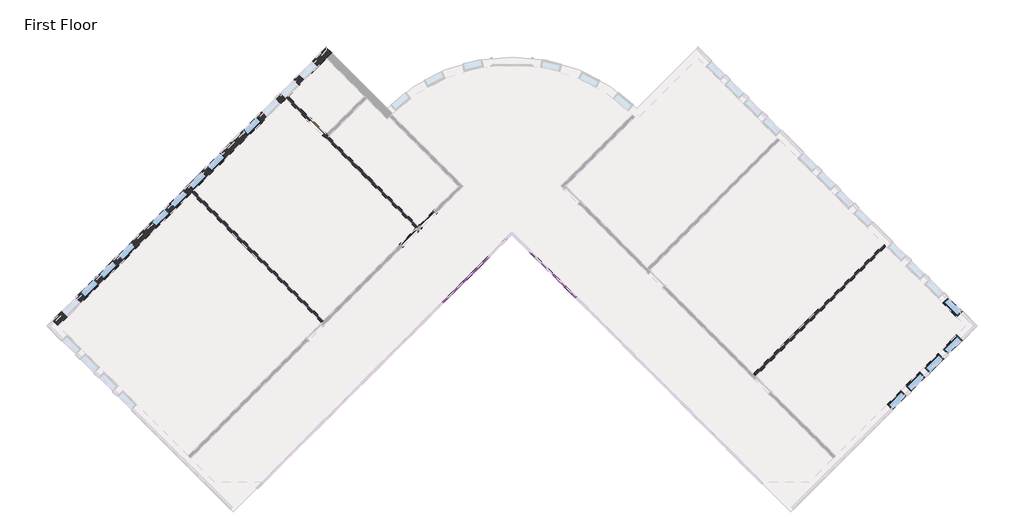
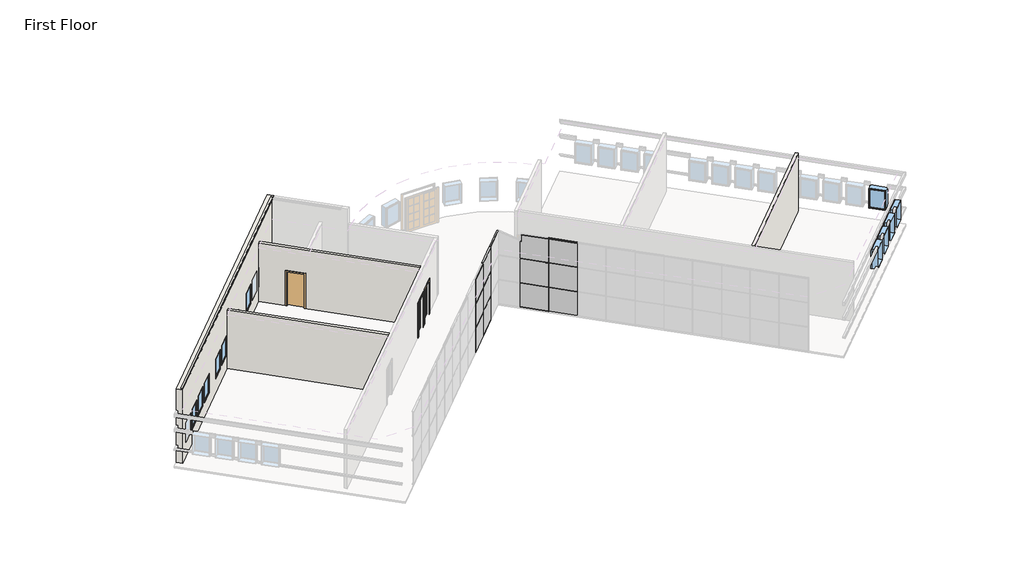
# One storey, part 3 of 5: 21 members, 13 windows, 12 plates, 4 walls, 3 doors.
"""IFC4 building model written with IfcOpenShell, lengths in millimetres."""

from ifc_helpers import new_model, si_unit, origin, origin_with_axes, place, context, project, spatial, polyline, outline, extrude, faceted_brep, transform, mapped, element, save
from components import door_f9494b7c, door_b81abb0e, door_5f5b55da, member_6121af53, member_155beb68, member_f5090587, member_42be4715, member_b8a5b5c0, system_panel_glazed_da345f4e, system_panel_glazed_f1e4c5b0, system_panel_solid_2f1037e2, system_panel_solid_f673cd79, window_15c49d37, window_0e2fc6ce

model = new_model("IFC4")

# Units and contexts
model_context = context("Model", 3, world=origin())
ifc_project = project(units=[si_unit("LENGTHUNIT", "METRE", prefix="MILLI")], contexts=[model_context])

# Site, building, storey
site = spatial("IfcSite", under=ifc_project)
building = spatial("IfcBuilding", under=site)
storey = spatial("IfcBuildingStorey", under=building, Name="First Floor", Elevation=0.0)

# Doors
placement = place(None, origin())
door_shape = door_f9494b7c(model_context)
element("IfcDoor", 1, ObjectType="Single-Flush : 36\" x 84\"", at=placement, inside=storey, context=model_context, shape_type="MappedRepresentation", body=[
    mapped(door_shape, transform((-11920.1265343, 7875.9588464, 0.0), x_axis=(0.7071067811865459, -0.7071067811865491, 0.0), y_axis=(0.7071067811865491, 0.7071067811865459, 0.0), z_axis=(0.0, 0.0, 1.0))),
])
door_2_shape = door_b81abb0e(model_context)
element("IfcDoor", 2, ObjectType="Single-Glass 1 : 36\" x 84\"", at=placement, inside=storey, context=model_context, shape_type="MappedRepresentation", body=[
    mapped(door_2_shape, transform((-7643.2795567, 2737.0072811, 0.0), x_axis=(0.7071067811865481, 0.7071067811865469, 0.0), y_axis=(-0.7071067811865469, 0.7071067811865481, 0.0), z_axis=(0.0, 0.0, 1.0))),
])
door_3_shape = door_5f5b55da(model_context)
element("IfcDoor", 3, ObjectType="Single-Glass 1 : 36\" x 84\"", at=placement, inside=storey, context=model_context, shape_type="MappedRepresentation", body=[
    mapped(door_3_shape, transform((-6781.1749691, 3599.1118687, 0.0), x_axis=(-0.7071067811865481, -0.7071067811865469, 0.0), y_axis=(0.7071067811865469, -0.7071067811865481, 0.0), z_axis=(0.0, 0.0, 1.0))),
])

# Members
member_shape = member_6121af53(model_context)
element("IfcMember", 4, ObjectType="Rectangular Mullion : 1.5\" x 2.5\" Rectangular", at=placement, inside=storey, context=model_context, shape_type="MappedRepresentation", body=[
    mapped(member_shape, transform((-5009.8194492, 810.7423431, 4572.0), x_axis=(0.0, 0.0, 1.0), y_axis=(-0.7071067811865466, 0.7071067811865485, 0.0), z_axis=(-0.7071067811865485, -0.7071067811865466, 0.0))),
])
element("IfcMember", 5, ObjectType="Rectangular Mullion : 1.5\" x 2.5\" Rectangular", at=placement, inside=storey, context=model_context, shape_type="MappedRepresentation", body=[
    mapped(member_shape, transform((-948.4986184, 1033.0036821, 4572.0), x_axis=(0.0, 0.0, 1.0), y_axis=(0.7071067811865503, 0.7071067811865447, 0.0), z_axis=(-0.7071067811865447, 0.7071067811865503, 0.0))),
])
member_2_shape = member_155beb68(model_context)
element("IfcMember", 6, ObjectType="Rectangular Mullion : 1.5\" x 2.5\" Rectangular", at=placement, inside=storey, context=model_context, shape_type="MappedRepresentation", body=[
    mapped(member_2_shape, transform((-3945.6590988, 1874.9026935, 1524.0), x_axis=(-0.7071067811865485, -0.7071067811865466, 0.0), y_axis=(-0.7071067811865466, 0.7071067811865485, 0.0), z_axis=(0.0, 0.0, -1.0))),
])
element("IfcMember", 7, ObjectType="Rectangular Mullion : 1.5\" x 2.5\" Rectangular", at=placement, inside=storey, context=model_context, shape_type="MappedRepresentation", body=[
    mapped(member_2_shape, transform((-5023.2898334, 797.271959, 1524.0), x_axis=(-0.7071067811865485, -0.7071067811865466, 0.0), y_axis=(-0.7071067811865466, 0.7071067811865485, 0.0), z_axis=(0.0, 0.0, -1.0))),
])
element("IfcMember", 8, ObjectType="Rectangular Mullion : 1.5\" x 2.5\" Rectangular", at=placement, inside=storey, context=model_context, shape_type="MappedRepresentation", body=[
    mapped(member_2_shape, transform((-961.9690026, 1046.4740663, 1524.0), x_axis=(-0.7071067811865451, 0.70710678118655, 0.0), y_axis=(0.70710678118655, 0.7071067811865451, 0.0), z_axis=(0.0, 0.0, -1.0))),
])
element("IfcMember", 9, ObjectType="Rectangular Mullion : 1.5\" x 2.5\" Rectangular", at=placement, inside=storey, context=model_context, shape_type="MappedRepresentation", body=[
    mapped(member_2_shape, transform((-3945.6590988, 1874.9026935, 3048.0), x_axis=(-0.7071067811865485, -0.7071067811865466, 0.0), y_axis=(-0.7071067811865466, 0.7071067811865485, 0.0), z_axis=(0.0, 0.0, -1.0))),
])
element("IfcMember", 10, ObjectType="Rectangular Mullion : 1.5\" x 2.5\" Rectangular", at=placement, inside=storey, context=model_context, shape_type="MappedRepresentation", body=[
    mapped(member_2_shape, transform((-5023.2898334, 797.271959, 3048.0), x_axis=(-0.7071067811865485, -0.7071067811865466, 0.0), y_axis=(-0.7071067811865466, 0.7071067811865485, 0.0), z_axis=(0.0, 0.0, -1.0))),
])
element("IfcMember", 11, ObjectType="Rectangular Mullion : 1.5\" x 2.5\" Rectangular", at=placement, inside=storey, context=model_context, shape_type="MappedRepresentation", body=[
    mapped(member_2_shape, transform((-961.9690026, 1046.4740663, 3048.0), x_axis=(-0.7071067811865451, 0.70710678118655, 0.0), y_axis=(0.70710678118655, 0.7071067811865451, 0.0), z_axis=(0.0, 0.0, -1.0))),
])
element("IfcMember", 12, ObjectType="Rectangular Mullion : 1.5\" x 2.5\" Rectangular", at=placement, inside=storey, context=model_context, shape_type="MappedRepresentation", body=[
    mapped(member_2_shape, transform((-3945.6590988, 1874.9026935, 0.0), x_axis=(-0.7071067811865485, -0.7071067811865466, 0.0), y_axis=(-0.7071067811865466, 0.7071067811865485, 0.0), z_axis=(0.0, 0.0, -1.0))),
])
element("IfcMember", 13, ObjectType="Rectangular Mullion : 1.5\" x 2.5\" Rectangular", at=placement, inside=storey, context=model_context, shape_type="MappedRepresentation", body=[
    mapped(member_2_shape, transform((-5023.2898334, 797.271959, 0.0), x_axis=(-0.7071067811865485, -0.7071067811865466, 0.0), y_axis=(-0.7071067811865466, 0.7071067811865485, 0.0), z_axis=(0.0, 0.0, -1.0))),
])
element("IfcMember", 14, ObjectType="Rectangular Mullion : 1.5\" x 2.5\" Rectangular", at=placement, inside=storey, context=model_context, shape_type="MappedRepresentation", body=[
    mapped(member_2_shape, transform((-961.9690026, 1046.4740663, 0.0), x_axis=(-0.7071067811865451, 0.70710678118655, 0.0), y_axis=(0.70710678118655, 0.7071067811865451, 0.0), z_axis=(0.0, 0.0, -1.0))),
])
member_3_shape = member_f5090587(model_context)
element("IfcMember", 15, ObjectType="Rectangular Mullion : 1.5\" x 2.5\" Rectangular", at=placement, inside=storey, context=model_context, shape_type="MappedRepresentation", body=[
    mapped(member_3_shape, transform((-3932.1887147, 1888.3730777, 3048.0), x_axis=(0.0, 0.0, 1.0), y_axis=(-0.7071067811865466, 0.7071067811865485, 0.0), z_axis=(-0.7071067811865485, -0.7071067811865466, 0.0))),
])
element("IfcMember", 16, ObjectType="Rectangular Mullion : 1.5\" x 2.5\" Rectangular", at=placement, inside=storey, context=model_context, shape_type="MappedRepresentation", body=[
    mapped(member_3_shape, transform((-3932.1887147, 1888.3730777, 1524.0), x_axis=(0.0, 0.0, 1.0), y_axis=(-0.7071067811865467, 0.7071067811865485, 0.0), z_axis=(-0.7071067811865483, -0.7071067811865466, 0.0))),
])
member_4_shape = member_42be4715(model_context)
element("IfcMember", 17, ObjectType="Rectangular Mullion : 1.5\" x 2.5\" Rectangular", at=placement, inside=storey, context=model_context, shape_type="MappedRepresentation", body=[
    mapped(member_4_shape, transform((-5009.8194492, 810.7423431, 3048.0), x_axis=(0.0, 0.0, 1.0), y_axis=(-0.7071067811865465, 0.7071067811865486, 0.0), z_axis=(-0.7071067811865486, -0.7071067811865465, 0.0))),
])
element("IfcMember", 18, ObjectType="Rectangular Mullion : 1.5\" x 2.5\" Rectangular", at=placement, inside=storey, context=model_context, shape_type="MappedRepresentation", body=[
    mapped(member_4_shape, transform((-5009.8194492, 810.7423431, 1524.0), x_axis=(0.0, 0.0, 1.0), y_axis=(-0.7071067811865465, 0.7071067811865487, 0.0), z_axis=(-0.7071067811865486, -0.7071067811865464, 0.0))),
])
element("IfcMember", 19, ObjectType="Rectangular Mullion : 1.5\" x 2.5\" Rectangular", at=placement, inside=storey, context=model_context, shape_type="MappedRepresentation", body=[
    mapped(member_4_shape, transform((-948.4986184, 1033.0036821, 3048.0), x_axis=(0.0, 0.0, 1.0), y_axis=(0.7071067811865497, 0.7071067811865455, 0.0), z_axis=(-0.7071067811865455, 0.7071067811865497, 0.0))),
])
element("IfcMember", 20, ObjectType="Rectangular Mullion : 1.5\" x 2.5\" Rectangular", at=placement, inside=storey, context=model_context, shape_type="MappedRepresentation", body=[
    mapped(member_4_shape, transform((-948.4986184, 1033.0036821, 1524.0), x_axis=(0.0, 0.0, 1.0), y_axis=(0.7071067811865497, 0.7071067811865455, 0.0), z_axis=(-0.7071067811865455, 0.7071067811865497, 0.0))),
])
element("IfcMember", 21, ObjectType="Rectangular Mullion : 1.5\" x 2.5\" Rectangular", at=placement, inside=storey, context=model_context, shape_type="MappedRepresentation", body=[
    mapped(member_shape, transform((-3959.129483, 1861.4323093, 0.0), x_axis=(0.0, 0.0, -1.0), y_axis=(-0.7071067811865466, 0.7071067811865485, 0.0), z_axis=(0.7071067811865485, 0.7071067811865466, 0.0))),
])
element("IfcMember", 22, ObjectType="Rectangular Mullion : 1.5\" x 2.5\" Rectangular", at=placement, inside=storey, context=model_context, shape_type="MappedRepresentation", body=[
    mapped(member_shape, transform((-5036.7602175, 783.8015748, 0.0), x_axis=(0.0, 0.0, -1.0), y_axis=(-0.7071067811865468, 0.7071067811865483, 0.0), z_axis=(0.7071067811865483, 0.7071067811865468, 0.0))),
])
element("IfcMember", 23, ObjectType="Rectangular Mullion : 1.5\" x 2.5\" Rectangular", at=placement, inside=storey, context=model_context, shape_type="MappedRepresentation", body=[
    mapped(member_shape, transform((-975.4393868, 1059.9444505, 0.0), x_axis=(0.0, 0.0, -1.0), y_axis=(0.7071067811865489, 0.7071067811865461, 0.0), z_axis=(0.7071067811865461, -0.7071067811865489, 0.0))),
])
member_5_shape = member_b8a5b5c0(model_context)
element("IfcMember", 24, ObjectType="Rectangular Mullion : 1.5\" x 2.5\" Rectangular", at=placement, inside=storey, context=model_context, shape_type="MappedRepresentation", body=[
    mapped(member_5_shape, transform((-3932.1887147, 1888.3730777, 4572.0), x_axis=(0.0, 0.0, 1.0), y_axis=(-0.7071067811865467, 0.7071067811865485, 0.0), z_axis=(-0.7071067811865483, -0.7071067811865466, 0.0))),
])

# Plates
system_panel_glazed_shape = system_panel_glazed_da345f4e(model_context)
element("IfcPlate", 25, ObjectType="System Panel : Glazed", at=placement, inside=storey, context=model_context, shape_type="MappedRepresentation", body=[
    mapped(system_panel_glazed_shape, transform((-423.1536353, 507.6586991, 38.1), x_axis=(-0.7071067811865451, 0.70710678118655, 0.0), y_axis=(-0.70710678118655, -0.7071067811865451, 0.0), z_axis=(0.0, 0.0, 1.0))),
])
element("IfcPlate", 26, ObjectType="System Panel : Glazed", at=placement, inside=storey, context=model_context, shape_type="MappedRepresentation", body=[
    mapped(system_panel_glazed_shape, transform((-4484.4744661, 1336.0873262, 38.1), x_axis=(-0.7071067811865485, -0.7071067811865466, 0.0), y_axis=(0.7071067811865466, -0.7071067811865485, 0.0), z_axis=(0.0, 0.0, 1.0))),
])
element("IfcPlate", 27, ObjectType="System Panel : Glazed", at=placement, inside=storey, context=model_context, shape_type="MappedRepresentation", body=[
    mapped(system_panel_glazed_shape, transform((-5562.1052006, 258.4565917, 38.1), x_axis=(-0.7071067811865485, -0.7071067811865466, 0.0), y_axis=(0.7071067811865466, -0.7071067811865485, 0.0), z_axis=(0.0, 0.0, 1.0))),
])
element("IfcPlate", 28, ObjectType="System Panel : Glazed", at=placement, inside=storey, context=model_context, shape_type="MappedRepresentation", body=[
    mapped(system_panel_glazed_shape, transform((-1500.7843699, 1585.2894336, 38.1), x_axis=(-0.7071067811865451, 0.70710678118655, 0.0), y_axis=(-0.70710678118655, -0.7071067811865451, 0.0), z_axis=(0.0, 0.0, 1.0))),
])
system_panel_glazed_2_shape = system_panel_glazed_f1e4c5b0(model_context)
element("IfcPlate", 29, ObjectType="System Panel : Glazed", at=placement, inside=storey, context=model_context, shape_type="MappedRepresentation", body=[
    mapped(system_panel_glazed_2_shape, transform((-423.1536353, 507.6586991, 1543.05), x_axis=(-0.7071067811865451, 0.70710678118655, 0.0), y_axis=(-0.70710678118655, -0.7071067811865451, 0.0), z_axis=(0.0, 0.0, 1.0))),
])
element("IfcPlate", 30, ObjectType="System Panel : Glazed", at=placement, inside=storey, context=model_context, shape_type="MappedRepresentation", body=[
    mapped(system_panel_glazed_2_shape, transform((-4484.4744661, 1336.0873262, 1543.05), x_axis=(-0.7071067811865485, -0.7071067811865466, 0.0), y_axis=(0.7071067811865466, -0.7071067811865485, 0.0), z_axis=(0.0, 0.0, 1.0))),
])
element("IfcPlate", 31, ObjectType="System Panel : Glazed", at=placement, inside=storey, context=model_context, shape_type="MappedRepresentation", body=[
    mapped(system_panel_glazed_2_shape, transform((-5562.1052006, 258.4565917, 1543.05), x_axis=(-0.7071067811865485, -0.7071067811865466, 0.0), y_axis=(0.7071067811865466, -0.7071067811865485, 0.0), z_axis=(0.0, 0.0, 1.0))),
])
element("IfcPlate", 32, ObjectType="System Panel : Glazed", at=placement, inside=storey, context=model_context, shape_type="MappedRepresentation", body=[
    mapped(system_panel_glazed_2_shape, transform((-1500.7843699, 1585.2894336, 1543.05), x_axis=(-0.7071067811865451, 0.70710678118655, 0.0), y_axis=(-0.70710678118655, -0.7071067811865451, 0.0), z_axis=(0.0, 0.0, 1.0))),
])
system_panel_solid_shape = system_panel_solid_2f1037e2(model_context)
element("IfcPlate", 33, ObjectType="System Panel : Solid", at=placement, inside=storey, context=model_context, shape_type="MappedRepresentation", body=[
    mapped(system_panel_solid_shape, transform((-423.1536353, 507.6586991, 3067.05), x_axis=(-0.7071067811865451, 0.70710678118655, 0.0), y_axis=(-0.70710678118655, -0.7071067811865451, 0.0), z_axis=(0.0, 0.0, 1.0))),
])
element("IfcPlate", 34, ObjectType="System Panel : Solid", at=placement, inside=storey, context=model_context, shape_type="MappedRepresentation", body=[
    mapped(system_panel_solid_shape, transform((-4484.4744661, 1336.0873262, 3067.05), x_axis=(-0.7071067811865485, -0.7071067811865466, 0.0), y_axis=(0.7071067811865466, -0.7071067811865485, 0.0), z_axis=(0.0, 0.0, 1.0))),
])
element("IfcPlate", 35, ObjectType="System Panel : Solid", at=placement, inside=storey, context=model_context, shape_type="MappedRepresentation", body=[
    mapped(system_panel_solid_shape, transform((-5562.1052006, 258.4565917, 3067.05), x_axis=(-0.7071067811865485, -0.7071067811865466, 0.0), y_axis=(0.7071067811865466, -0.7071067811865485, 0.0), z_axis=(0.0, 0.0, 1.0))),
])
system_panel_solid_2_shape = system_panel_solid_f673cd79(model_context)
element("IfcPlate", 36, ObjectType="System Panel : Solid", at=placement, inside=storey, context=model_context, shape_type="MappedRepresentation", body=[
    mapped(system_panel_solid_2_shape, transform((-1500.7843699, 1585.2894336, 3067.05), x_axis=(-0.7071067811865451, 0.70710678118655, 0.0), y_axis=(-0.70710678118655, -0.7071067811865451, 0.0), z_axis=(0.0, 0.0, 1.0))),
])

# Walls
element("IfcWall", 37, ObjectType="Exterior - Split Face and CMU on Mtl. Stud", at=placement, inside=storey, context=model_context, shape_type="Brep", body=[
    faceted_brep([(-23922.2388402, -1357.9895101, 0.0), (-17743.7048466, 4820.5444835, 0.0), (-17633.6967091, 4930.552621, 0.0), (-13359.2125777, 9205.0367523, 0.0), (-13249.2044403, 9315.0448898, 0.0), (-11489.0742405, 11075.1750895, 0.0), (-11239.8721332, 11324.3771969, 0.0), (-11239.8721332, 11324.3771969, 1016.0), (-11304.9789901, 11259.27034, 1016.0), (-11304.9789901, 11259.27034, 1085.85), (-11239.8721332, 11324.3771969, 1085.85), (-11239.8721332, 11324.3771969, 2133.6), (-11304.9789901, 11259.27034, 2133.6), (-11304.9789901, 11259.27034, 2336.8), (-11239.8721332, 11324.3771969, 2336.8), (-11239.8721332, 11324.3771969, 3048.0), (-11304.9789901, 11259.27034, 3048.0), (-11304.9789901, 11259.27034, 3251.2), (-11239.8721332, 11324.3771969, 3251.2), (-11239.8721332, 11324.3771969, 4572.0), (-11489.0742405, 11075.1750895, 4572.0), (-23922.2388402, -1357.9895101, 4572.0), (-23508.0245266, -943.7751965, 914.4), (-23508.0245266, -943.7751965, 2133.6), (-22861.4460859, -297.1967558, 2133.6), (-22861.4460859, -297.1967558, 914.4), (-22645.9199389, -81.6706089, 914.4), (-22645.9199389, -81.6706089, 2133.6), (-21999.3414982, 564.9078318, 2133.6), (-21999.3414982, 564.9078318, 914.4), (-20921.7107637, 1642.5385664, 914.4), (-20921.7107637, 1642.5385664, 2133.6), (-20275.132323, 2289.1170071, 2133.6), (-20275.132323, 2289.1170071, 914.4), (-21783.8153513, 780.4339787, 914.4), (-21783.8153513, 780.4339787, 2133.6), (-21137.2369106, 1427.0124195, 2133.6), (-21137.2369106, 1427.0124195, 914.4), (-11869.3770291, 10694.8723009, 2133.6), (-11869.3770291, 10694.8723009, 914.4), (-12515.9554698, 10048.2938602, 914.4), (-12515.9554698, 10048.2938602, 2133.6), (-12731.4816167, 9832.7677133, 2133.6), (-12731.4816167, 9832.7677133, 914.4), (-13378.0600575, 9186.1892726, 914.4), (-13378.0600575, 9186.1892726, 2133.6), (-13593.5862044, 8970.6631257, 2133.6), (-13593.5862044, 8970.6631257, 914.4), (-14240.1646451, 8324.084685, 914.4), (-14240.1646451, 8324.084685, 2133.6), (-14455.690792, 8108.5585381, 2133.6), (-14455.690792, 8108.5585381, 914.4), (-15102.2692327, 7461.9800974, 914.4), (-15102.2692327, 7461.9800974, 2133.6), (-19359.6176228, 3204.6317073, 914.4), (-19359.6176228, 3204.6317073, 2133.6), (-18713.0391821, 3851.210148, 2133.6), (-18713.0391821, 3851.210148, 914.4), (-18497.5130352, 4066.7362949, 914.4), (-18497.5130352, 4066.7362949, 2133.6), (-17850.9345944, 4713.3147356, 2133.6), (-17850.9345944, 4713.3147356, 914.4), (-17635.4084475, 4928.8408825, 914.4), (-17635.4084475, 4928.8408825, 2133.6), (-16988.8300068, 5575.4193232, 2133.6), (-16988.8300068, 5575.4193232, 914.4), (-16773.3038599, 5790.9454701, 914.4), (-16773.3038599, 5790.9454701, 2133.6), (-16126.7254192, 6437.5239109, 2133.6), (-16126.7254192, 6437.5239109, 914.4), (-11489.0742405, 11573.5793042, 0.0), (-24171.4409475, -1108.7874027, 0.0), (-24171.4409475, -1108.7874027, 1016.0), (-23757.2266339, -694.5730891, 1016.0), (-23757.2266339, -694.5730891, 914.4), (-23110.6481932, -47.9946484, 914.4), (-23110.6481932, -47.9946484, 1016.0), (-22895.1220463, 167.5314985, 1016.0), (-22895.1220463, 167.5314985, 914.4), (-22248.5436056, 814.1099392, 914.4), (-22248.5436056, 814.1099392, 1016.0), (-22033.0174587, 1029.6360861, 1016.0), (-22033.0174587, 1029.6360861, 914.4), (-21386.439018, 1676.2145268, 914.4), (-21386.439018, 1676.2145268, 1016.0), (-21170.9128711, 1891.7406737, 1016.0), (-21170.9128711, 1891.7406737, 914.4), (-20524.3344303, 2538.3191144, 914.4), (-20524.3344303, 2538.3191144, 1016.0), (-19608.8197301, 3453.8338146, 1016.0), (-19608.8197301, 3453.8338146, 914.4), (-18962.2412894, 4100.4122553, 914.4), (-18962.2412894, 4100.4122553, 1016.0), (-18746.7151425, 4315.9384023, 1016.0), (-18746.7151425, 4315.9384023, 914.4), (-18100.1367018, 4962.516843, 914.4), (-18100.1367018, 4962.516843, 1016.0), (-17884.6105549, 5178.0429899, 1016.0), (-17884.6105549, 5178.0429899, 914.4), (-17238.0321142, 5824.6214306, 914.4), (-17238.0321142, 5824.6214306, 1016.0), (-17022.5059673, 6040.1475775, 1016.0), (-17022.5059673, 6040.1475775, 914.4), (-16375.9275266, 6686.7260182, 914.4), (-16375.9275266, 6686.7260182, 1016.0), (-15351.4713401, 7711.1822047, 1016.0), (-15351.4713401, 7711.1822047, 914.4), (-14704.8928993, 8357.7606454, 914.4), (-14704.8928993, 8357.7606454, 1016.0), (-14489.3667524, 8573.2867923, 1016.0), (-14489.3667524, 8573.2867923, 914.4), (-13842.7883117, 9219.8652331, 914.4), (-13842.7883117, 9219.8652331, 1016.0), (-13627.2621648, 9435.39138, 1016.0), (-13627.2621648, 9435.39138, 914.4), (-12980.6837241, 10081.9698207, 914.4), (-12980.6837241, 10081.9698207, 1016.0), (-12765.1575772, 10297.4959676, 1016.0), (-12765.1575772, 10297.4959676, 914.4), (-12118.5791365, 10944.0744083, 914.4), (-12118.5791365, 10944.0744083, 1016.0), (-11489.0742405, 11573.5793042, 1016.0), (-23110.6481932, -47.9946484, 2133.6), (-23757.2266339, -694.5730891, 2133.6), (-23757.2266339, -694.5730891, 2336.8), (-24171.4409475, -1108.7874027, 2336.8), (-24171.4409475, -1108.7874027, 3048.0), (-11489.0742405, 11573.5793042, 3048.0), (-11489.0742405, 11573.5793042, 2336.8), (-12118.5791365, 10944.0744083, 2336.8), (-12118.5791365, 10944.0744083, 2133.6), (-12765.1575772, 10297.4959676, 2133.6), (-12765.1575772, 10297.4959676, 2336.8), (-12980.6837241, 10081.9698207, 2336.8), (-12980.6837241, 10081.9698207, 2133.6), (-13627.2621648, 9435.39138, 2133.6), (-13627.2621648, 9435.39138, 2336.8), (-13842.7883117, 9219.8652331, 2336.8), (-13842.7883117, 9219.8652331, 2133.6), (-14489.3667524, 8573.2867923, 2133.6), (-14489.3667524, 8573.2867923, 2336.8), (-14704.8928993, 8357.7606454, 2336.8), (-14704.8928993, 8357.7606454, 2133.6), (-15351.4713401, 7711.1822047, 2133.6), (-15351.4713401, 7711.1822047, 2336.8), (-16375.9275266, 6686.7260182, 2336.8), (-16375.9275266, 6686.7260182, 2133.6), (-17022.5059673, 6040.1475775, 2133.6), (-17022.5059673, 6040.1475775, 2336.8), (-17238.0321142, 5824.6214306, 2336.8), (-17238.0321142, 5824.6214306, 2133.6), (-17884.6105549, 5178.0429899, 2133.6), (-17884.6105549, 5178.0429899, 2336.8), (-18100.1367018, 4962.516843, 2336.8), (-18100.1367018, 4962.516843, 2133.6), (-18746.7151425, 4315.9384023, 2133.6), (-18746.7151425, 4315.9384023, 2336.8), (-18962.2412894, 4100.4122553, 2336.8), (-18962.2412894, 4100.4122553, 2133.6), (-19608.8197301, 3453.8338146, 2133.6), (-19608.8197301, 3453.8338146, 2336.8), (-20524.3344303, 2538.3191144, 2336.8), (-20524.3344303, 2538.3191144, 2133.6), (-21170.9128711, 1891.7406737, 2133.6), (-21170.9128711, 1891.7406737, 2336.8), (-21386.439018, 1676.2145268, 2336.8), (-21386.439018, 1676.2145268, 2133.6), (-22033.0174587, 1029.6360861, 2133.6), (-22033.0174587, 1029.6360861, 2336.8), (-22248.5436056, 814.1099392, 2336.8), (-22248.5436056, 814.1099392, 2133.6), (-22895.1220463, 167.5314985, 2133.6), (-22895.1220463, 167.5314985, 2336.8), (-23110.6481932, -47.9946484, 2336.8), (-23757.2266339, -694.5730891, 1085.85), (-24171.4409475, -1108.7874027, 1085.85), (-24171.4409475, -1108.7874027, 2133.6), (-23110.6481932, -47.9946484, 1085.85), (-22895.1220463, 167.5314985, 1085.85), (-22248.5436056, 814.1099392, 1085.85), (-22033.0174587, 1029.6360861, 1085.85), (-21170.9128711, 1891.7406737, 1085.85), (-21386.439018, 1676.2145268, 1085.85), (-20524.3344303, 2538.3191144, 1085.85), (-19608.8197301, 3453.8338146, 1085.85), (-12765.1575772, 10297.4959676, 1085.85), (-12980.6837241, 10081.9698207, 1085.85), (-12118.5791365, 10944.0744083, 1085.85), (-11489.0742405, 11573.5793042, 2133.6), (-11489.0742405, 11573.5793042, 1085.85), (-13627.2621648, 9435.39138, 1085.85), (-13842.7883117, 9219.8652331, 1085.85), (-14489.3667524, 8573.2867923, 1085.85), (-14704.8928993, 8357.7606454, 1085.85), (-15351.4713401, 7711.1822047, 1085.85), (-16375.9275266, 6686.7260182, 1085.85), (-18962.2412894, 4100.4122553, 1085.85), (-18746.7151425, 4315.9384023, 1085.85), (-18100.1367018, 4962.516843, 1085.85), (-17884.6105549, 5178.0429899, 1085.85), (-17238.0321142, 5824.6214306, 1085.85), (-17022.5059673, 6040.1475775, 1085.85), (-11489.0742405, 11573.5793042, 4572.0), (-11489.0742405, 11573.5793042, 3251.2), (-24171.4409475, -1108.7874027, 3251.2), (-24171.4409475, -1108.7874027, 4572.0), (-11423.9673837, 11508.4724474, 0.0), (-24106.3340906, -1173.8942596, 0.0), (-24106.3340906, -1173.8942596, 3251.2), (-24106.3340906, -1173.8942596, 3048.0), (-24106.3340906, -1173.8942596, 2336.8), (-24106.3340906, -1173.8942596, 2133.6), (-24106.3340906, -1173.8942596, 1085.85), (-24106.3340906, -1173.8942596, 1016.0), (-23692.119777, -759.679946, 1016.0), (-23692.119777, -759.679946, 1085.85), (-23692.119777, -759.679946, 2133.6), (-23045.5413363, -113.1015053, 2133.6), (-23045.5413363, -113.1015053, 1085.85), (-23045.5413363, -113.1015053, 1016.0), (-22830.0151894, 102.4246416, 1016.0), (-22830.0151894, 102.4246416, 1085.85), (-22830.0151894, 102.4246416, 2133.6), (-22183.4367487, 749.0030823, 2133.6), (-22183.4367487, 749.0030823, 1085.85), (-22183.4367487, 749.0030823, 1016.0), (-21105.8060142, 1826.6338168, 1016.0), (-21105.8060142, 1826.6338168, 1085.85), (-21105.8060142, 1826.6338168, 2133.6), (-20459.2275735, 2473.2122576, 2133.6), (-20459.2275735, 2473.2122576, 1085.85), (-20459.2275735, 2473.2122576, 1016.0), (-21967.9106018, 964.5292292, 1016.0), (-21967.9106018, 964.5292292, 1085.85), (-21967.9106018, 964.5292292, 2133.6), (-21321.3321611, 1611.1076699, 2133.6), (-21321.3321611, 1611.1076699, 1085.85), (-21321.3321611, 1611.1076699, 1016.0), (-12053.4722796, 10878.9675514, 2133.6), (-12053.4722796, 10878.9675514, 1085.85), (-12053.4722796, 10878.9675514, 1016.0), (-12700.0507203, 10232.3891107, 1016.0), (-12700.0507203, 10232.3891107, 1085.85), (-12700.0507203, 10232.3891107, 2133.6), (-12915.5768672, 10016.8629638, 2133.6), (-12915.5768672, 10016.8629638, 1085.85), (-12915.5768672, 10016.8629638, 1016.0), (-13562.1553079, 9370.2845231, 1016.0), (-13562.1553079, 9370.2845231, 1085.85), (-13562.1553079, 9370.2845231, 2133.6), (-13777.6814548, 9154.7583762, 2133.6), (-13777.6814548, 9154.7583762, 1085.85), (-13777.6814548, 9154.7583762, 1016.0), (-14424.2598956, 8508.1799355, 1016.0), (-14424.2598956, 8508.1799355, 1085.85), (-14424.2598956, 8508.1799355, 2133.6), (-14639.7860425, 8292.6537886, 2133.6), (-14639.7860425, 8292.6537886, 1085.85), (-14639.7860425, 8292.6537886, 1016.0), (-15286.3644832, 7646.0753478, 1016.0), (-15286.3644832, 7646.0753478, 1085.85), (-15286.3644832, 7646.0753478, 2133.6), (-19543.7128733, 3388.7269578, 1016.0), (-19543.7128733, 3388.7269578, 1085.85), (-19543.7128733, 3388.7269578, 2133.6), (-18897.1344326, 4035.3053985, 2133.6), (-18897.1344326, 4035.3053985, 1085.85), (-18897.1344326, 4035.3053985, 1016.0), (-18681.6082856, 4250.8315454, 1016.0), (-18681.6082856, 4250.8315454, 1085.85), (-18681.6082856, 4250.8315454, 2133.6), (-18035.0298449, 4897.4099861, 2133.6), (-18035.0298449, 4897.4099861, 1085.85), (-18035.0298449, 4897.4099861, 1016.0), (-17819.503698, 5112.936133, 1016.0), (-17819.503698, 5112.936133, 1085.85), (-17819.503698, 5112.936133, 2133.6), (-17172.9252573, 5759.5145737, 2133.6), (-17172.9252573, 5759.5145737, 1085.85), (-17172.9252573, 5759.5145737, 1016.0), (-16957.3991104, 5975.0407206, 1016.0), (-16957.3991104, 5975.0407206, 1085.85), (-16957.3991104, 5975.0407206, 2133.6), (-16310.8206697, 6621.6191613, 2133.6), (-16310.8206697, 6621.6191613, 1085.85), (-16310.8206697, 6621.6191613, 1016.0), (-11489.0742405, 11443.3655905, 1085.85), (-11489.0742405, 11443.3655905, 1016.0), (-23692.119777, -759.679946, 2133.6), (-23692.119777, -759.679946, 2336.8), (-23045.5413363, -113.1015053, 2133.6), (-23045.5413363, -113.1015053, 2336.8), (-22830.0151894, 102.4246416, 2336.8), (-22830.0151894, 102.4246416, 2133.6), (-22183.4367487, 749.0030823, 2133.6), (-22183.4367487, 749.0030823, 2336.8), (-21967.9106018, 964.5292292, 2336.8), (-21967.9106018, 964.5292292, 2133.6), (-21321.3321611, 1611.1076699, 2133.6), (-21321.3321611, 1611.1076699, 2336.8), (-21105.8060142, 1826.6338168, 2336.8), (-21105.8060142, 1826.6338168, 2133.6), (-20459.2275735, 2473.2122576, 2133.6), (-20459.2275735, 2473.2122576, 2336.8), (-19543.7128733, 3388.7269578, 2336.8), (-19543.7128733, 3388.7269578, 2133.6), (-18897.1344326, 4035.3053985, 2133.6), (-18897.1344326, 4035.3053985, 2336.8), (-18681.6082856, 4250.8315454, 2336.8), (-18681.6082856, 4250.8315454, 2133.6), (-18035.0298449, 4897.4099861, 2133.6), (-18035.0298449, 4897.4099861, 2336.8), (-17819.503698, 5112.936133, 2336.8), (-17819.503698, 5112.936133, 2133.6), (-17172.9252573, 5759.5145737, 2133.6), (-17172.9252573, 5759.5145737, 2336.8), (-16957.3991104, 5975.0407206, 2336.8), (-16957.3991104, 5975.0407206, 2133.6), (-16310.8206697, 6621.6191613, 2133.6), (-16310.8206697, 6621.6191613, 2336.8), (-15286.3644832, 7646.0753478, 2336.8), (-15286.3644832, 7646.0753478, 2133.6), (-14639.7860425, 8292.6537886, 2133.6), (-14639.7860425, 8292.6537886, 2336.8), (-14424.2598956, 8508.1799355, 2336.8), (-14424.2598956, 8508.1799355, 2133.6), (-13777.6814548, 9154.7583762, 2133.6), (-13777.6814548, 9154.7583762, 2336.8), (-13562.1553079, 9370.2845231, 2336.8), (-13562.1553079, 9370.2845231, 2133.6), (-12915.5768672, 10016.8629638, 2133.6), (-12915.5768672, 10016.8629638, 2336.8), (-12700.0507203, 10232.3891107, 2336.8), (-12700.0507203, 10232.3891107, 2133.6), (-12053.4722796, 10878.9675514, 2133.6), (-12053.4722796, 10878.9675514, 2336.8), (-11489.0742405, 11443.3655905, 2133.6), (-11489.0742405, 11443.3655905, 2336.8), (-11489.0742405, 11443.3655905, 3048.0), (-11489.0742405, 11443.3655905, 3251.2)], [[[0, 1, 2, 3, 4, 5, 6, 7, 8, 9, 10, 11, 12, 13, 14, 15, 16, 17, 18, 19, 20, 21], [22, 23, 24, 25], [26, 27, 28, 29], [30, 31, 32, 33], [34, 35, 36, 37], [38, 39, 40, 41], [42, 43, 44, 45], [46, 47, 48, 49], [50, 51, 52, 53], [54, 55, 56, 57], [58, 59, 60, 61], [62, 63, 64, 65], [66, 67, 68, 69]], [[70, 71, 72, 73, 74, 75, 76, 77, 78, 79, 80, 81, 82, 83, 84, 85, 86, 87, 88, 89, 90, 91, 92, 93, 94, 95, 96, 97, 98, 99, 100, 101, 102, 103, 104, 105, 106, 107, 108, 109, 110, 111, 112, 113, 114, 115, 116, 117, 118, 119, 120, 121]], [[122, 123, 124, 125, 126, 127, 128, 129, 130, 131, 132, 133, 134, 135, 136, 137, 138, 139, 140, 141, 142, 143, 144, 145, 146, 147, 148, 149, 150, 151, 152, 153, 154, 155, 156, 157, 158, 159, 160, 161, 162, 163, 164, 165, 166, 167, 168, 169, 170, 171, 172, 173]], [[123, 174, 175, 176]], [[177, 122, 171, 178]], [[179, 170, 167, 180]], [[163, 181, 182, 166]], [[183, 162, 159, 184]], [[131, 185, 186, 134]], [[187, 130, 188, 189]], [[135, 190, 191, 138]], [[139, 192, 193, 142]], [[143, 194, 195, 146]], [[196, 158, 155, 197]], [[198, 154, 151, 199]], [[200, 150, 147, 201]], [[202, 203, 204, 205]], [[6, 206, 70, 121, 7]], [[10, 189, 188, 11]], [[14, 128, 127, 15]], [[19, 18, 203, 202]], [[207, 0, 21, 205, 204, 208, 209, 126, 125, 210, 211, 176, 175, 212, 213, 72, 71]], [[6, 5, 4, 3, 2, 1, 0, 207, 206]], [[207, 71, 70, 206]], [[23, 22, 74, 73, 214, 215, 174, 123, 216]], [[75, 74, 22, 25]], [[25, 24, 217, 122, 177, 218, 219, 76, 75]], [[123, 122, 217, 24, 23, 216]], [[27, 26, 78, 77, 220, 221, 178, 171, 222]], [[79, 78, 26, 29]], [[29, 28, 223, 170, 179, 224, 225, 80, 79]], [[171, 170, 223, 28, 27, 222]], [[31, 30, 86, 85, 226, 227, 181, 163, 228]], [[87, 86, 30, 33]], [[33, 32, 229, 162, 183, 230, 231, 88, 87]], [[163, 162, 229, 32, 31, 228]], [[35, 34, 82, 81, 232, 233, 180, 167, 234]], [[83, 82, 34, 37]], [[37, 36, 235, 166, 182, 236, 237, 84, 83]], [[167, 166, 235, 36, 35, 234]], [[39, 38, 238, 130, 187, 239, 240, 120, 119]], [[40, 39, 119, 118]], [[41, 40, 118, 117, 241, 242, 185, 131, 243]], [[38, 41, 243, 131, 130, 238]], [[43, 42, 244, 134, 186, 245, 246, 116, 115]], [[44, 43, 115, 114]], [[45, 44, 114, 113, 247, 248, 190, 135, 249]], [[42, 45, 249, 135, 134, 244]], [[47, 46, 250, 138, 191, 251, 252, 112, 111]], [[48, 47, 111, 110]], [[49, 48, 110, 109, 253, 254, 192, 139, 255]], [[46, 49, 255, 139, 138, 250]], [[51, 50, 256, 142, 193, 257, 258, 108, 107]], [[52, 51, 107, 106]], [[53, 52, 106, 105, 259, 260, 194, 143, 261]], [[50, 53, 261, 143, 142, 256]], [[55, 54, 90, 89, 262, 263, 184, 159, 264]], [[91, 90, 54, 57]], [[57, 56, 265, 158, 196, 266, 267, 92, 91]], [[159, 158, 265, 56, 55, 264]], [[59, 58, 94, 93, 268, 269, 197, 155, 270]], [[95, 94, 58, 61]], [[61, 60, 271, 154, 198, 272, 273, 96, 95]], [[155, 154, 271, 60, 59, 270]], [[63, 62, 98, 97, 274, 275, 199, 151, 276]], [[99, 98, 62, 65]], [[65, 64, 277, 150, 200, 278, 279, 100, 99]], [[151, 150, 277, 64, 63, 276]], [[67, 66, 102, 101, 280, 281, 201, 147, 282]], [[103, 102, 66, 69]], [[69, 68, 283, 146, 195, 284, 285, 104, 103]], [[147, 146, 283, 68, 67, 282]], [[215, 212, 175, 174]], [[213, 214, 73, 72]], [[212, 215, 214, 213]], [[221, 218, 177, 178]], [[219, 220, 77, 76]], [[218, 221, 220, 219]], [[233, 224, 179, 180]], [[225, 232, 81, 80]], [[224, 233, 232, 225]], [[227, 236, 182, 181]], [[237, 226, 85, 84]], [[236, 227, 226, 237]], [[263, 230, 183, 184]], [[231, 262, 89, 88]], [[230, 263, 262, 231]], [[269, 266, 196, 197]], [[267, 268, 93, 92]], [[266, 269, 268, 267]], [[275, 272, 198, 199]], [[273, 274, 97, 96]], [[272, 275, 274, 273]], [[281, 278, 200, 201]], [[279, 280, 101, 100]], [[278, 281, 280, 279]], [[260, 284, 195, 194]], [[285, 259, 105, 104]], [[284, 260, 259, 285]], [[254, 257, 193, 192]], [[258, 253, 109, 108]], [[257, 254, 253, 258]], [[248, 251, 191, 190]], [[252, 247, 113, 112]], [[251, 248, 247, 252]], [[242, 245, 186, 185]], [[246, 241, 117, 116]], [[245, 242, 241, 246]], [[286, 239, 187, 189, 10, 9]], [[240, 287, 8, 7, 121, 120]], [[239, 286, 287, 240]], [[287, 286, 9, 8]], [[288, 123, 176, 211]], [[124, 289, 210, 125]], [[123, 288, 289, 124]], [[289, 288, 211, 210]], [[290, 122, 173, 291]], [[292, 172, 171, 293]], [[122, 290, 293, 171]], [[290, 291, 292, 293]], [[291, 173, 172, 292]], [[294, 170, 169, 295]], [[296, 168, 167, 297]], [[170, 294, 297, 167]], [[294, 295, 296, 297]], [[295, 169, 168, 296]], [[298, 166, 165, 299]], [[300, 164, 163, 301]], [[166, 298, 301, 163]], [[298, 299, 300, 301]], [[299, 165, 164, 300]], [[302, 162, 161, 303]], [[304, 160, 159, 305]], [[162, 302, 305, 159]], [[302, 303, 304, 305]], [[303, 161, 160, 304]], [[306, 158, 157, 307]], [[308, 156, 155, 309]], [[158, 306, 309, 155]], [[306, 307, 308, 309]], [[307, 157, 156, 308]], [[310, 154, 153, 311]], [[312, 152, 151, 313]], [[154, 310, 313, 151]], [[310, 311, 312, 313]], [[311, 153, 152, 312]], [[314, 150, 149, 315]], [[316, 148, 147, 317]], [[150, 314, 317, 147]], [[314, 315, 316, 317]], [[315, 149, 148, 316]], [[318, 146, 145, 319]], [[320, 144, 143, 321]], [[146, 318, 321, 143]], [[318, 319, 320, 321]], [[319, 145, 144, 320]], [[322, 142, 141, 323]], [[324, 140, 139, 325]], [[142, 322, 325, 139]], [[322, 323, 324, 325]], [[323, 141, 140, 324]], [[326, 138, 137, 327]], [[328, 136, 135, 329]], [[138, 326, 329, 135]], [[326, 327, 328, 329]], [[327, 137, 136, 328]], [[330, 134, 133, 331]], [[332, 132, 131, 333]], [[134, 330, 333, 131]], [[330, 331, 332, 333]], [[331, 133, 132, 332]], [[334, 130, 129, 335]], [[130, 334, 336, 12, 11, 188]], [[334, 335, 337, 336]], [[335, 129, 128, 14, 13, 337]], [[336, 337, 13, 12]], [[209, 338, 16, 15, 127, 126]], [[17, 339, 208, 204, 203, 18]], [[339, 338, 209, 208]], [[338, 339, 17, 16]], [[21, 20, 19, 202, 205]]]),
    faceted_brep([(-11489.0742405, 11075.1750895, 4689.475), (-23922.2388402, -1357.9895101, 4689.475), (-23922.2388402, -1357.9895101, 4639.3965909), (-11489.0742405, 11075.1750895, 4639.3965909), (-11413.683542, 11150.5657881, 4653.9354839), (-23997.6295387, -1282.5988115, 4653.9354839), (-11489.0742405, 11225.9564867, 4653.9354839)], [[[0, 1, 2, 3, 4]], [[2, 1, 5]], [[1, 0, 6, 5]], [[0, 4, 6]], [[6, 3, 2, 5]], [[3, 6, 4]]]),
])
element("IfcWall", 38, ObjectType="Interior - 6 1/8\" Partition (2-hr)", at=placement, inside=storey, context=model_context, shape_type="Brep", body=[
    faceted_brep([(-7212.2272629, 3278.0677124, 0.0), (-11379.066103, 7444.9065526, 0.0), (-11489.0742405, 7554.9146901, 0.0), (-11541.8332452, 7607.6736948, 0.0), (-11541.8332452, 7607.6736948, 2133.6), (-12188.411686, 8254.2521355, 2133.6), (-12188.411686, 8254.2521355, 0.0), (-13249.2044403, 9315.0448898, 0.0), (-13249.2044403, 9315.0448898, 3657.6), (-11489.0742405, 7554.9146901, 3657.6), (-11379.066103, 7444.9065526, 3657.6), (-7212.2272629, 3278.0677124, 3657.6), (-11651.8413827, 7497.6655573, 2133.6), (-11651.8413827, 7497.6655573, 0.0), (-7322.2354004, 3168.0595749, 0.0), (-7322.2354004, 3168.0595749, 3657.6), (-13359.2125777, 9205.0367523, 3657.6), (-13359.2125777, 9205.0367523, 0.0), (-12298.4198234, 8144.243998, 0.0), (-12298.4198234, 8144.243998, 2133.6)], [[[0, 1, 2, 3, 4, 5, 6, 7, 8, 9, 10, 11]], [[12, 13, 14, 15, 16, 17, 18, 19]], [[14, 13, 3, 2, 1, 0]], [[18, 17, 7, 6]], [[11, 10, 9, 8, 16, 15]], [[8, 7, 17, 16]], [[0, 11, 15, 14]], [[4, 3, 13, 12]], [[5, 4, 12, 19]], [[6, 5, 19, 18]]]),
])
element("IfcWall", 39, ObjectType="Interior - 6 1/8\" Partition (2-hr)", at=placement, inside=storey, context=model_context, shape_type="SweptSolid", body=[
    extrude(outline(polyline([(-17633.6967091, 4930.552621), (-11596.7195317, -1106.4245564), (-11706.7276692, -1216.4326939), (-17743.7048466, 4820.5444835), (-17633.6967091, 4930.552621)])), origin_with_axes(), (0.0, 0.0, 1.0), 3657.6),
])
element("IfcWall", 40, ObjectType="Interior - 6 1/8\" Partition (2-hr)", at=placement, inside=storey, context=model_context, shape_type="SweptSolid", body=[
    extrude(outline(polyline([(8339.3312748, -3585.0930281), (14376.3084522, 2451.8841493), (14486.3165897, 2341.8760118), (8449.3394123, -3695.1011656), (8339.3312748, -3585.0930281)])), origin_with_axes(), (0.0, 0.0, 1.0), 3657.6),
])

# Windows
window_shape = window_15c49d37(model_context)
element("IfcWindow", 41, ObjectType="Fixed : 36\" x 48\"", at=placement, inside=storey, context=model_context, shape_type="MappedRepresentation", body=[
    mapped(window_shape, transform((-22474.1725406, 339.2788968, 0.0), x_axis=(-0.7071067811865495, -0.7071067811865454, 0.0), y_axis=(0.7071067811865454, -0.7071067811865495, 0.0), z_axis=(0.0, 0.0, 1.0))),
])
element("IfcWindow", 42, ObjectType="Fixed : 36\" x 48\"", at=placement, inside=storey, context=model_context, shape_type="MappedRepresentation", body=[
    mapped(window_shape, transform((-21612.067953, 1201.3834844, 0.0), x_axis=(-0.7071067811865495, -0.7071067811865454, 0.0), y_axis=(0.7071067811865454, -0.7071067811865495, 0.0), z_axis=(0.0, 0.0, 1.0))),
])
element("IfcWindow", 43, ObjectType="Fixed : 36\" x 48\"", at=placement, inside=storey, context=model_context, shape_type="MappedRepresentation", body=[
    mapped(window_shape, transform((-20749.9633654, 2063.488072, 0.0), x_axis=(-0.7071067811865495, -0.7071067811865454, 0.0), y_axis=(0.7071067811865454, -0.7071067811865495, 0.0), z_axis=(0.0, 0.0, 1.0))),
])
element("IfcWindow", 44, ObjectType="Fixed : 36\" x 48\"", at=placement, inside=storey, context=model_context, shape_type="MappedRepresentation", body=[
    mapped(window_shape, transform((-19187.8702245, 3625.5812129, 0.0), x_axis=(-0.7071067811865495, -0.7071067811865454, 0.0), y_axis=(0.7071067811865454, -0.7071067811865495, 0.0), z_axis=(0.0, 0.0, 1.0))),
])
element("IfcWindow", 45, ObjectType="Fixed : 36\" x 48\"", at=placement, inside=storey, context=model_context, shape_type="MappedRepresentation", body=[
    mapped(window_shape, transform((-18325.7656368, 4487.6858006, 0.0), x_axis=(-0.7071067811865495, -0.7071067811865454, 0.0), y_axis=(0.7071067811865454, -0.7071067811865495, 0.0), z_axis=(0.0, 0.0, 1.0))),
])
element("IfcWindow", 46, ObjectType="Fixed : 36\" x 48\"", at=placement, inside=storey, context=model_context, shape_type="MappedRepresentation", body=[
    mapped(window_shape, transform((-17463.6610492, 5349.7903882, 0.0), x_axis=(-0.7071067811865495, -0.7071067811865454, 0.0), y_axis=(0.7071067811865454, -0.7071067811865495, 0.0), z_axis=(0.0, 0.0, 1.0))),
])
element("IfcWindow", 47, ObjectType="Fixed : 36\" x 48\"", at=placement, inside=storey, context=model_context, shape_type="MappedRepresentation", body=[
    mapped(window_shape, transform((-16601.5564616, 6211.8949758, 0.0), x_axis=(-0.7071067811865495, -0.7071067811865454, 0.0), y_axis=(0.7071067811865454, -0.7071067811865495, 0.0), z_axis=(0.0, 0.0, 1.0))),
])
element("IfcWindow", 48, ObjectType="Fixed : 36\" x 48\"", at=placement, inside=storey, context=model_context, shape_type="MappedRepresentation", body=[
    mapped(window_shape, transform((17600.2203996, -2193.1533294, 0.0), x_axis=(0.7071067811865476, 0.7071067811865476, 0.0), y_axis=(-0.7071067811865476, 0.7071067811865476, 0.0), z_axis=(0.0, 0.0, 1.0))),
])
element("IfcWindow", 49, ObjectType="Fixed : 36\" x 48\"", at=placement, inside=storey, context=model_context, shape_type="MappedRepresentation", body=[
    mapped(window_shape, transform((16738.115812, -3055.257917, 0.0), x_axis=(0.7071067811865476, 0.7071067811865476, 0.0), y_axis=(-0.7071067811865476, 0.7071067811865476, 0.0), z_axis=(0.0, 0.0, 1.0))),
])
element("IfcWindow", 50, ObjectType="Fixed : 36\" x 48\"", at=placement, inside=storey, context=model_context, shape_type="MappedRepresentation", body=[
    mapped(window_shape, transform((15876.0112244, -3917.3625046, 0.0), x_axis=(0.7071067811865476, 0.7071067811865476, 0.0), y_axis=(-0.7071067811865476, 0.7071067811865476, 0.0), z_axis=(0.0, 0.0, 1.0))),
])
element("IfcWindow", 51, ObjectType="Fixed : 36\" x 48\"", at=placement, inside=storey, context=model_context, shape_type="MappedRepresentation", body=[
    mapped(window_shape, transform((15013.9066368, -4779.4670922, 0.0), x_axis=(0.7071067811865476, 0.7071067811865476, 0.0), y_axis=(-0.7071067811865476, 0.7071067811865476, 0.0), z_axis=(0.0, 0.0, 1.0))),
])
window_2_shape = window_0e2fc6ce(model_context)
element("IfcWindow", 52, ObjectType="Fixed : 36\" x 48\"", at=placement, inside=storey, context=model_context, shape_type="MappedRepresentation", body=[
    mapped(window_2_shape, transform((-14876.6402977, 7936.8111398, 0.0), x_axis=(0.7071067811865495, 0.7071067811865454, 0.0), y_axis=(-0.7071067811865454, 0.7071067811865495, 0.0), z_axis=(0.0, 0.0, 1.0))),
])
element("IfcWindow", 53, ObjectType="Fixed : 36\" x 48\"", at=placement, inside=storey, context=model_context, shape_type="MappedRepresentation", body=[
    mapped(window_2_shape, transform((17600.2203996, -522.8256908, 0.0), x_axis=(0.7071067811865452, -0.7071067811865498, 0.0), y_axis=(0.7071067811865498, 0.7071067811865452, 0.0), z_axis=(0.0, 0.0, 1.0))),
])

save(model, "model.ifc")
